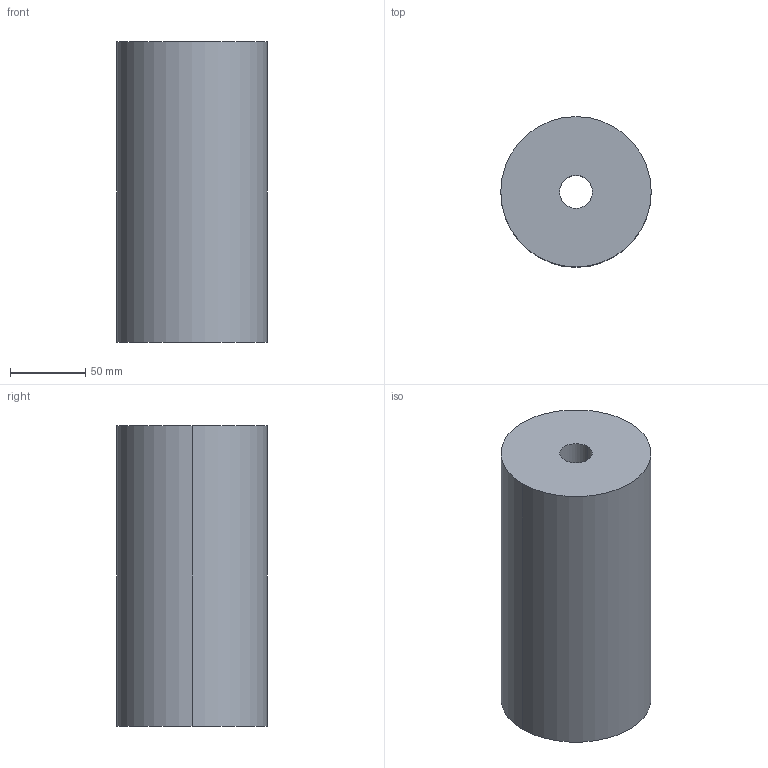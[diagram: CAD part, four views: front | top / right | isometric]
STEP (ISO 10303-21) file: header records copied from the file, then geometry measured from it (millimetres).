
FILE_DESCRIPTION(/* description */ (''),/* implementation_level */ '2;1');
FILE_NAME(/* name */ '3d_pla100-200_04960_r00.stp',/* time_stamp */ '2011-01-10T14:11:43+09:00',/* author */ ('MISUMI'),/* organization */ (''),/* preprocessor_version */ 'ST-DEVELOPER v11',/* originating_system */ 'UGS - NX 5.0',/* authorisation */ '');
FILE_SCHEMA (('CONFIG_CONTROL_DESIGN'));
Length unit declared in the file: millimetre
Products named in the file (1): 3d_pla100-200_04960_r00
Bounding box: 100 x 100 x 200 mm (x, y, z)
Volume: 1494769.8 mm3; surface area: 91602.6 mm2
Topology: 1 solids, 1 shells, 6 faces, 12 edges, 8 vertices
Faces by surface type: cylinder 4, plane 2
Entity records: 254 total; most frequent: DIRECTION 34, CARTESIAN_POINT 27, ORIENTED_EDGE 24, AXIS2_PLACEMENT_3D 15, EDGE_CURVE 12, EDGE_LOOP 8, VERTEX_POINT 8, CIRCLE 8
